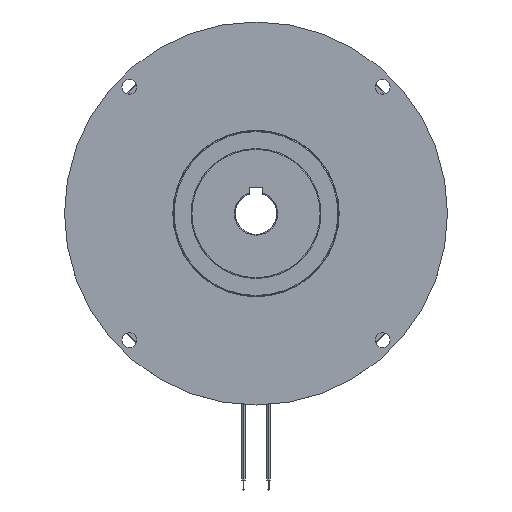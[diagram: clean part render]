
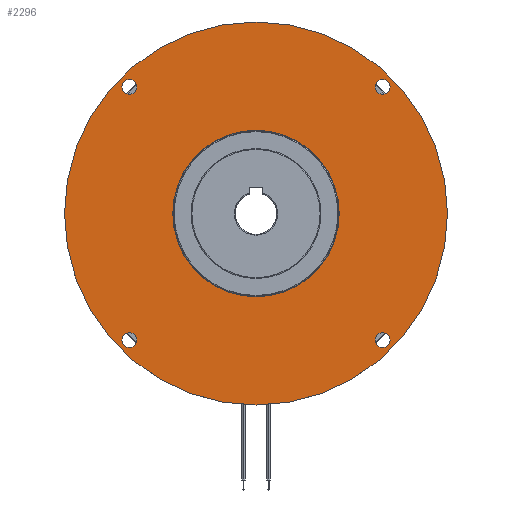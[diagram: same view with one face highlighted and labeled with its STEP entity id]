
A CAD part, top view. The second image highlights one B-rep face of the part: STEP entity #2296.
In plain terms, the highlighted planar face has unit normal (0, 0, 1).
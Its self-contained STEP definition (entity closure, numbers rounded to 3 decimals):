
#20 = CARTESIAN_POINT ( 'NONE',  ( 0., 0., 0. ) ) ;
#100 = EDGE_CURVE ( 'NONE', #7020, #9135, #6987, .T. ) ;
#148 = DIRECTION ( 'NONE',  ( -1., 0., 0. ) ) ;
#295 = FACE_BOUND ( 'NONE', #6533, .T. ) ;
#305 = CIRCLE ( 'NONE', #1483, 4.5 ) ;
#397 = CARTESIAN_POINT ( 'NONE',  ( 80.514, -76.014, 0. ) ) ;
#416 = EDGE_CURVE ( 'NONE', #9135, #7020, #1516, .T. ) ;
#423 = FACE_BOUND ( 'NONE', #8225, .T. ) ;
#730 = EDGE_LOOP ( 'NONE', ( #5587, #6168 ) ) ;
#771 = DIRECTION ( 'NONE',  ( 0., 0., -1. ) ) ;
#877 = AXIS2_PLACEMENT_3D ( 'NONE', #11114, #4683, #3782 ) ;
#1021 = CARTESIAN_POINT ( 'NONE',  ( 76.014, -76.014, 0. ) ) ;
#1163 = CARTESIAN_POINT ( 'NONE',  ( -76.014, -76.014, 0. ) ) ;
#1169 = CIRCLE ( 'NONE', #1554, 115. ) ;
#1313 = CIRCLE ( 'NONE', #5202, 50. ) ;
#1483 = AXIS2_PLACEMENT_3D ( 'NONE', #11049, #771, #9046 ) ;
#1516 = CIRCLE ( 'NONE', #3114, 4.5 ) ;
#1554 = AXIS2_PLACEMENT_3D ( 'NONE', #9949, #1629, #1687 ) ;
#1629 = DIRECTION ( 'NONE',  ( 0., 0., -1. ) ) ;
#1653 = VERTEX_POINT ( 'NONE', #8791 ) ;
#1687 = DIRECTION ( 'NONE',  ( -1., 0., 0. ) ) ;
#1736 = VERTEX_POINT ( 'NONE', #397 ) ;
#1905 = CIRCLE ( 'NONE', #10454, 115. ) ;
#2029 = DIRECTION ( 'NONE',  ( -1., 0., 0. ) ) ;
#2184 = ORIENTED_EDGE ( 'NONE', *, *, #4971, .T. ) ;
#2195 = CARTESIAN_POINT ( 'NONE',  ( -76.014, -76.014, 0. ) ) ;
#2208 = DIRECTION ( 'NONE',  ( -1., 0., 0. ) ) ;
#2262 = FACE_BOUND ( 'NONE', #2278, .T. ) ;
#2278 = EDGE_LOOP ( 'NONE', ( #3613, #9958 ) ) ;
#2296 = ADVANCED_FACE ( 'NONE', ( #2262, #295, #423, #5979, #10523, #7913 ), #11552, .F. ) ;
#2701 = CARTESIAN_POINT ( 'NONE',  ( 0., 0., 0. ) ) ;
#2872 = DIRECTION ( 'NONE',  ( -1., 0., 0. ) ) ;
#2874 = AXIS2_PLACEMENT_3D ( 'NONE', #1021, #4881, #2872 ) ;
#3034 = EDGE_CURVE ( 'NONE', #1653, #4532, #9380, .T. ) ;
#3056 = CARTESIAN_POINT ( 'NONE',  ( -80.514, 76.014, 0. ) ) ;
#3114 = AXIS2_PLACEMENT_3D ( 'NONE', #11605, #8754, #8923 ) ;
#3149 = CIRCLE ( 'NONE', #4109, 4.5 ) ;
#3229 = CARTESIAN_POINT ( 'NONE',  ( 76.014, 76.014, 0. ) ) ;
#3297 = AXIS2_PLACEMENT_3D ( 'NONE', #3311, #6029, #5119 ) ;
#3311 = CARTESIAN_POINT ( 'NONE',  ( -76.014, 76.014, 0. ) ) ;
#3415 = ORIENTED_EDGE ( 'NONE', *, *, #5941, .T. ) ;
#3585 = ORIENTED_EDGE ( 'NONE', *, *, #3034, .T. ) ;
#3613 = ORIENTED_EDGE ( 'NONE', *, *, #416, .T. ) ;
#3761 = DIRECTION ( 'NONE',  ( 0., 0., -1. ) ) ;
#3782 = DIRECTION ( 'NONE',  ( -1., 0., 0. ) ) ;
#3873 = VERTEX_POINT ( 'NONE', #4058 ) ;
#3887 = ORIENTED_EDGE ( 'NONE', *, *, #9197, .T. ) ;
#3926 = DIRECTION ( 'NONE',  ( 0., 0., -1. ) ) ;
#3934 = EDGE_LOOP ( 'NONE', ( #11652, #2184 ) ) ;
#4058 = CARTESIAN_POINT ( 'NONE',  ( -115., 0., 0. ) ) ;
#4109 = AXIS2_PLACEMENT_3D ( 'NONE', #8441, #5923, #11367 ) ;
#4464 = EDGE_CURVE ( 'NONE', #1736, #10592, #10439, .T. ) ;
#4477 = AXIS2_PLACEMENT_3D ( 'NONE', #1163, #3926, #2029 ) ;
#4514 = EDGE_LOOP ( 'NONE', ( #3887, #4744 ) ) ;
#4532 = VERTEX_POINT ( 'NONE', #7536 ) ;
#4683 = DIRECTION ( 'NONE',  ( 0., 0., -1. ) ) ;
#4744 = ORIENTED_EDGE ( 'NONE', *, *, #5197, .T. ) ;
#4881 = DIRECTION ( 'NONE',  ( 0., 0., -1. ) ) ;
#4951 = CARTESIAN_POINT ( 'NONE',  ( 80.514, 76.014, 0. ) ) ;
#4971 = EDGE_CURVE ( 'NONE', #11861, #11409, #8494, .T. ) ;
#5071 = DIRECTION ( 'NONE',  ( 0., 0., -1. ) ) ;
#5118 = DIRECTION ( 'NONE',  ( -1., 0., 0. ) ) ;
#5119 = DIRECTION ( 'NONE',  ( -1., 0., 0. ) ) ;
#5197 = EDGE_CURVE ( 'NONE', #7670, #9345, #1313, .T. ) ;
#5202 = AXIS2_PLACEMENT_3D ( 'NONE', #20, #3761, #148 ) ;
#5391 = AXIS2_PLACEMENT_3D ( 'NONE', #3229, #10600, #6001 ) ;
#5587 = ORIENTED_EDGE ( 'NONE', *, *, #10158, .F. ) ;
#5913 = EDGE_CURVE ( 'NONE', #11409, #11861, #3149, .T. ) ;
#5915 = CARTESIAN_POINT ( 'NONE',  ( -50., 0., 0. ) ) ;
#5923 = DIRECTION ( 'NONE',  ( 0., 0., -1. ) ) ;
#5941 = EDGE_CURVE ( 'NONE', #4532, #1653, #9724, .T. ) ;
#5979 = FACE_BOUND ( 'NONE', #3934, .T. ) ;
#6001 = DIRECTION ( 'NONE',  ( -1., 0., 0. ) ) ;
#6029 = DIRECTION ( 'NONE',  ( 0., 0., -1. ) ) ;
#6168 = ORIENTED_EDGE ( 'NONE', *, *, #11330, .F. ) ;
#6533 = EDGE_LOOP ( 'NONE', ( #11648, #8993 ) ) ;
#6987 = CIRCLE ( 'NONE', #5391, 4.5 ) ;
#7020 = VERTEX_POINT ( 'NONE', #4951 ) ;
#7536 = CARTESIAN_POINT ( 'NONE',  ( -71.514, -76.014, 0. ) ) ;
#7630 = AXIS2_PLACEMENT_3D ( 'NONE', #8573, #5071, #2208 ) ;
#7670 = VERTEX_POINT ( 'NONE', #8230 ) ;
#7913 = FACE_BOUND ( 'NONE', #4514, .T. ) ;
#8040 = DIRECTION ( 'NONE',  ( 0., 0., -1. ) ) ;
#8225 = EDGE_LOOP ( 'NONE', ( #3585, #3415 ) ) ;
#8230 = CARTESIAN_POINT ( 'NONE',  ( 50., 0., 0. ) ) ;
#8441 = CARTESIAN_POINT ( 'NONE',  ( -76.014, 76.014, 0. ) ) ;
#8494 = CIRCLE ( 'NONE', #3297, 4.5 ) ;
#8573 = CARTESIAN_POINT ( 'NONE',  ( 0., 115., 0. ) ) ;
#8614 = CARTESIAN_POINT ( 'NONE',  ( 71.514, -76.014, 0. ) ) ;
#8754 = DIRECTION ( 'NONE',  ( 0., 0., -1. ) ) ;
#8777 = VERTEX_POINT ( 'NONE', #11791 ) ;
#8791 = CARTESIAN_POINT ( 'NONE',  ( -80.514, -76.014, 0. ) ) ;
#8923 = DIRECTION ( 'NONE',  ( -1., 0., 0. ) ) ;
#8993 = ORIENTED_EDGE ( 'NONE', *, *, #4464, .T. ) ;
#9046 = DIRECTION ( 'NONE',  ( -1., 0., 0. ) ) ;
#9128 = EDGE_CURVE ( 'NONE', #10592, #1736, #305, .T. ) ;
#9135 = VERTEX_POINT ( 'NONE', #10014 ) ;
#9197 = EDGE_CURVE ( 'NONE', #9345, #7670, #10012, .T. ) ;
#9345 = VERTEX_POINT ( 'NONE', #5915 ) ;
#9380 = CIRCLE ( 'NONE', #9761, 4.5 ) ;
#9724 = CIRCLE ( 'NONE', #4477, 4.5 ) ;
#9761 = AXIS2_PLACEMENT_3D ( 'NONE', #2195, #11653, #5118 ) ;
#9949 = CARTESIAN_POINT ( 'NONE',  ( 0., 0., 0. ) ) ;
#9958 = ORIENTED_EDGE ( 'NONE', *, *, #100, .T. ) ;
#10012 = CIRCLE ( 'NONE', #877, 50. ) ;
#10014 = CARTESIAN_POINT ( 'NONE',  ( 71.514, 76.014, 0. ) ) ;
#10099 = DIRECTION ( 'NONE',  ( -1., 0., 0. ) ) ;
#10158 = EDGE_CURVE ( 'NONE', #3873, #8777, #1905, .T. ) ;
#10364 = CARTESIAN_POINT ( 'NONE',  ( -71.514, 76.014, 0. ) ) ;
#10439 = CIRCLE ( 'NONE', #2874, 4.5 ) ;
#10454 = AXIS2_PLACEMENT_3D ( 'NONE', #2701, #8040, #10099 ) ;
#10523 = FACE_OUTER_BOUND ( 'NONE', #730, .T. ) ;
#10592 = VERTEX_POINT ( 'NONE', #8614 ) ;
#10600 = DIRECTION ( 'NONE',  ( 0., 0., -1. ) ) ;
#11049 = CARTESIAN_POINT ( 'NONE',  ( 76.014, -76.014, 0. ) ) ;
#11114 = CARTESIAN_POINT ( 'NONE',  ( 0., 0., 0. ) ) ;
#11330 = EDGE_CURVE ( 'NONE', #8777, #3873, #1169, .T. ) ;
#11367 = DIRECTION ( 'NONE',  ( -1., 0., 0. ) ) ;
#11409 = VERTEX_POINT ( 'NONE', #3056 ) ;
#11552 = PLANE ( 'NONE',  #7630 ) ;
#11605 = CARTESIAN_POINT ( 'NONE',  ( 76.014, 76.014, 0. ) ) ;
#11648 = ORIENTED_EDGE ( 'NONE', *, *, #9128, .T. ) ;
#11652 = ORIENTED_EDGE ( 'NONE', *, *, #5913, .T. ) ;
#11653 = DIRECTION ( 'NONE',  ( 0., 0., -1. ) ) ;
#11791 = CARTESIAN_POINT ( 'NONE',  ( 115., 0., 0. ) ) ;
#11861 = VERTEX_POINT ( 'NONE', #10364 ) ;
